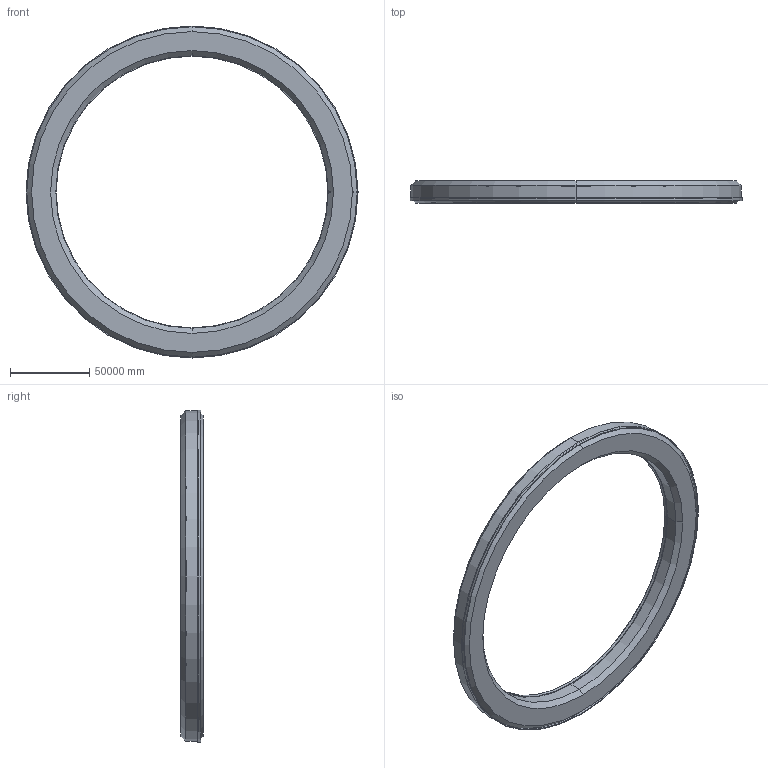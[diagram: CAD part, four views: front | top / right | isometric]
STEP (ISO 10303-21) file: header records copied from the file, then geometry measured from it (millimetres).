
FILE_DESCRIPTION (( 'STEP AP203' ), '1' );
FILE_NAME ('GEO_02_Pressurized_Torus_Hab_Ring.STEP', '2026-10-29T17:29:06', ( 'user' ), ( '' ), 'SwSTEP 2.0', 'SolidWorks 2026', '' );
FILE_SCHEMA (( 'CONFIG_CONTROL_DESIGN' ));
Length unit declared in the file: inch
Products named in the file (1): GEO_02_Pressurized_Torus_Hab_Ring
Bounding box: 209000 x 14000 x 209000 mm (x, y, z)
Volume: 29579508549397.9 mm3; surface area: 69316668085.8 mm2
Topology: 1 solids, 1 shells, 58 faces, 152 edges, 96 vertices
Faces by surface type: cylinder 24, cone 24, plane 10
Entity records: 1883 total; most frequent: DIRECTION 342, CARTESIAN_POINT 307, ORIENTED_EDGE 304, EDGE_CURVE 152, AXIS2_PLACEMENT_3D 131, VERTEX_POINT 96, LINE 80, VECTOR 80
